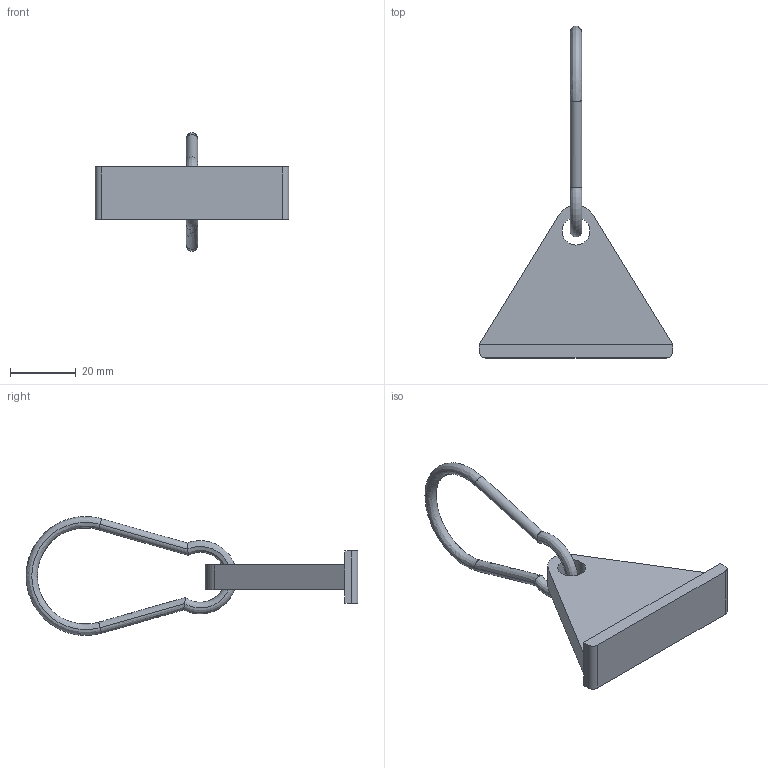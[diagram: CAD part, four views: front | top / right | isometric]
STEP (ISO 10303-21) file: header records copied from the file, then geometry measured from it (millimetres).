
FILE_DESCRIPTION (( 'STEP AP203' ), '1' );
FILE_NAME ('218-CE-MH-8.STEP', '2015-07-09T09:29:10', ( '' ), ( '' ), 'SwSTEP 2.0', 'SolidWorks 2013', '' );
FILE_SCHEMA (( 'CONFIG_CONTROL_DESIGN' ));
Length unit declared in the file: millimetre
Products named in the file (1): 218-CE-MH-8
Bounding box: 59 x 101.1 x 36.21 mm (x, y, z)
Volume: 15257.1 mm3; surface area: 7367.9 mm2
Topology: 2 solids, 2 shells, 26 faces, 58 edges, 34 vertices
Faces by surface type: plane 11, bspline 10, cylinder 5
Entity records: 1731 total; most frequent: CARTESIAN_POINT 1143, ORIENTED_EDGE 116, DIRECTION 88, EDGE_CURVE 58, VERTEX_POINT 34, LINE 30, VECTOR 30, AXIS2_PLACEMENT_3D 29
